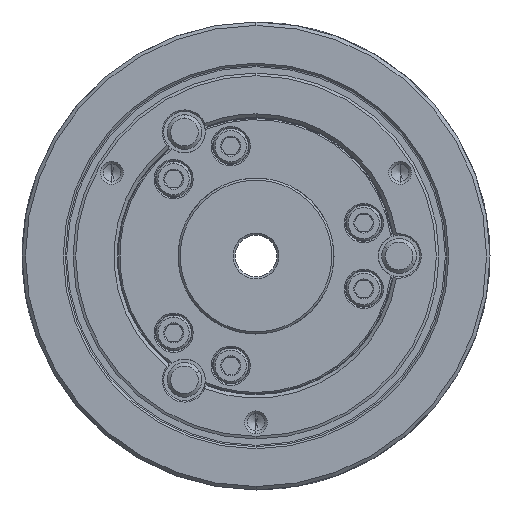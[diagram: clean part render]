
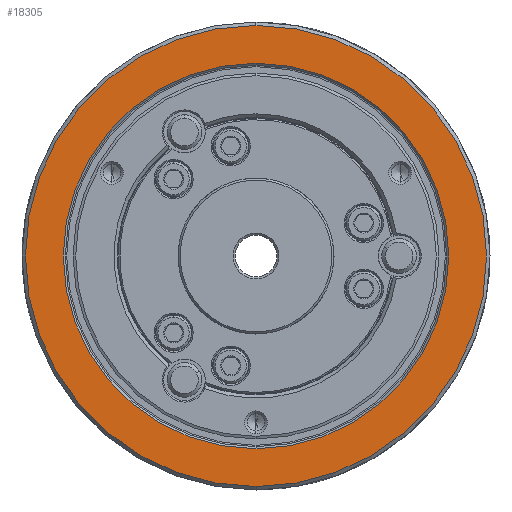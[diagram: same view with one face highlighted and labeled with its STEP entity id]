
A CAD part, left-side view. The second image highlights one B-rep face of the part: STEP entity #18305.
In plain terms, the highlighted planar face has unit normal (-1, 0, 0).
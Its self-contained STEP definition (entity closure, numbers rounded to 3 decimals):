
#157 = CARTESIAN_POINT ( 'NONE',  ( -60., 0., 0. ) ) ;
#2794 = EDGE_CURVE ( 'NONE', #2884, #17869, #4826, .T. ) ;
#2884 = VERTEX_POINT ( 'NONE', #87086 ) ;
#3034 = CIRCLE ( 'NONE', #22752, 66.5 ) ;
#4072 = DIRECTION ( 'NONE',  ( 1., 0., 0. ) ) ;
#4826 = CIRCLE ( 'NONE', #75307, 55.6 ) ;
#4985 = FACE_OUTER_BOUND ( 'NONE', #36463, .T. ) ;
#5775 = EDGE_CURVE ( 'NONE', #10322, #85365, #43190, .T. ) ;
#9155 = DIRECTION ( 'NONE',  ( 0., 0., -1. ) ) ;
#10322 = VERTEX_POINT ( 'NONE', #26829 ) ;
#17180 = AXIS2_PLACEMENT_3D ( 'NONE', #24316, #4072, #23479 ) ;
#17869 = VERTEX_POINT ( 'NONE', #51012 ) ;
#18305 = ADVANCED_FACE ( 'NONE', ( #65427, #4985 ), #70733, .T. ) ;
#21648 = CARTESIAN_POINT ( 'NONE',  ( -60., 0., 0. ) ) ;
#22752 = AXIS2_PLACEMENT_3D ( 'NONE', #21648, #74157, #48574 ) ;
#23479 = DIRECTION ( 'NONE',  ( 0., 0., -1. ) ) ;
#23657 = DIRECTION ( 'NONE',  ( 1., 0., 0. ) ) ;
#23951 = ORIENTED_EDGE ( 'NONE', *, *, #58073, .F. ) ;
#24316 = CARTESIAN_POINT ( 'NONE',  ( -60., 0., 0. ) ) ;
#26820 = ORIENTED_EDGE ( 'NONE', *, *, #71128, .T. ) ;
#26829 = CARTESIAN_POINT ( 'NONE',  ( -60., 0., -66.5 ) ) ;
#27906 = DIRECTION ( 'NONE',  ( 0., 0., -1. ) ) ;
#29001 = CARTESIAN_POINT ( 'NONE',  ( -60., 0., 0. ) ) ;
#29416 = CARTESIAN_POINT ( 'NONE',  ( -60., 0., 66.5 ) ) ;
#29910 = EDGE_LOOP ( 'NONE', ( #26820, #82902 ) ) ;
#30517 = AXIS2_PLACEMENT_3D ( 'NONE', #29001, #23657, #9155 ) ;
#30996 = DIRECTION ( 'NONE',  ( -1., 0., 0. ) ) ;
#31673 = ORIENTED_EDGE ( 'NONE', *, *, #5775, .F. ) ;
#36463 = EDGE_LOOP ( 'NONE', ( #31673, #23951 ) ) ;
#43190 = CIRCLE ( 'NONE', #30517, 66.5 ) ;
#44695 = CARTESIAN_POINT ( 'NONE',  ( -60., 55.6, 0. ) ) ;
#47356 = DIRECTION ( 'NONE',  ( 1., 0., 0. ) ) ;
#48574 = DIRECTION ( 'NONE',  ( 0., 0., -1. ) ) ;
#51007 = AXIS2_PLACEMENT_3D ( 'NONE', #44695, #30996, #64563 ) ;
#51012 = CARTESIAN_POINT ( 'NONE',  ( -60., 0., 55.6 ) ) ;
#51014 = CIRCLE ( 'NONE', #17180, 55.6 ) ;
#58073 = EDGE_CURVE ( 'NONE', #85365, #10322, #3034, .T. ) ;
#64563 = DIRECTION ( 'NONE',  ( 0., 0., 1. ) ) ;
#65427 = FACE_BOUND ( 'NONE', #29910, .T. ) ;
#70733 = PLANE ( 'NONE',  #51007 ) ;
#71128 = EDGE_CURVE ( 'NONE', #17869, #2884, #51014, .T. ) ;
#74157 = DIRECTION ( 'NONE',  ( 1., 0., 0. ) ) ;
#75307 = AXIS2_PLACEMENT_3D ( 'NONE', #157, #47356, #27906 ) ;
#82902 = ORIENTED_EDGE ( 'NONE', *, *, #2794, .T. ) ;
#85365 = VERTEX_POINT ( 'NONE', #29416 ) ;
#87086 = CARTESIAN_POINT ( 'NONE',  ( -60., 0., -55.6 ) ) ;
